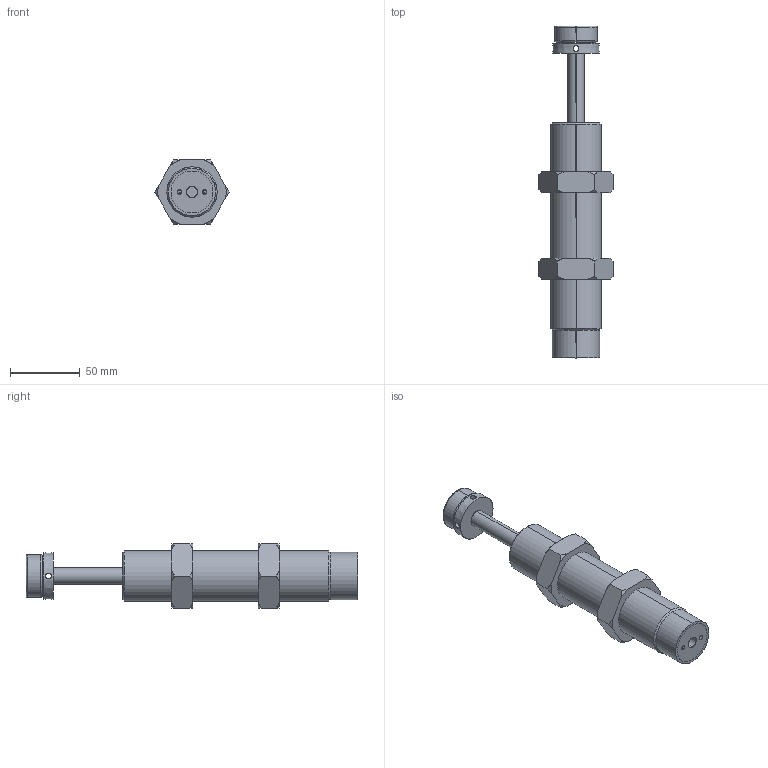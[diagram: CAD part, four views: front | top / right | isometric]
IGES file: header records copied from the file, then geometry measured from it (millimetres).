
Start section: SolidWorks IGES file using analytic representation for surfaces
Bounding box: 53.12 x 238 x 46 mm (x, y, z)
Surface area: 37271 mm2 (no closed solid volume)
Topology: 0 solids, 0 shells, 106 faces, 2150 edges, 2150 vertices
Faces by surface type: revolution 74, bspline 32
